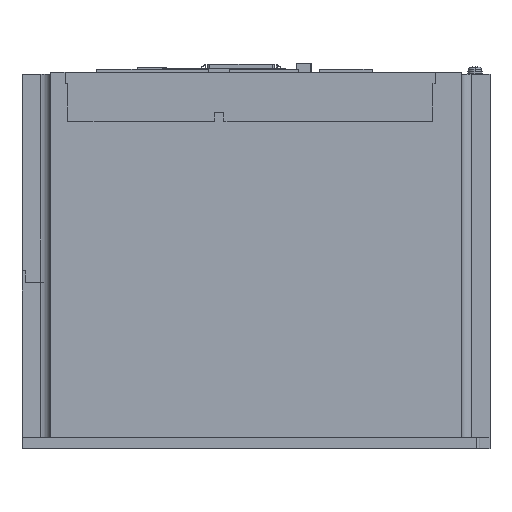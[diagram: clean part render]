
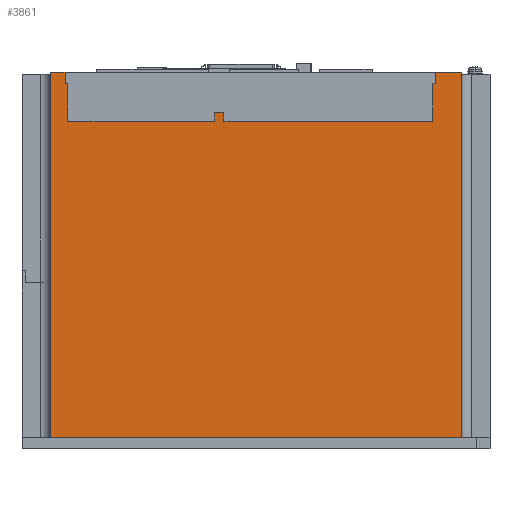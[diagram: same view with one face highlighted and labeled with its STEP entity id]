
A CAD part, left-side view. The second image highlights one B-rep face of the part: STEP entity #3861.
In plain terms, the highlighted planar face has unit normal (-1, 0, 0).
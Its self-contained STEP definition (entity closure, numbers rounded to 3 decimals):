
#921=DIRECTION('',(0.,-1.,0.));
#922=VECTOR('',#921,220.);
#923=CARTESIAN_POINT('',(-52.5,110.,0.));
#924=LINE('',#923,#922);
#1347=DIRECTION('',(0.,-1.,0.));
#1348=VECTOR('',#1347,8.);
#1349=CARTESIAN_POINT('',(-52.5,110.,195.2));
#1350=LINE('',#1349,#1348);
#1376=DIRECTION('',(0.,-1.,0.));
#1377=VECTOR('',#1376,14.);
#1378=CARTESIAN_POINT('',(-52.5,-96.,195.2));
#1379=LINE('',#1378,#1377);
#1406=DIRECTION('',(0.,0.,1.));
#1407=VECTOR('',#1406,20.);
#1408=CARTESIAN_POINT('',(-52.5,100.5,169.));
#1409=LINE('',#1408,#1407);
#1446=DIRECTION('',(0.,0.,1.));
#1447=VECTOR('',#1446,4.5);
#1448=CARTESIAN_POINT('',(-52.5,17.1,169.));
#1449=LINE('',#1448,#1447);
#1474=DIRECTION('',(0.,1.,0.));
#1475=VECTOR('',#1474,1.5);
#1476=CARTESIAN_POINT('',(-52.5,-96.,189.));
#1477=LINE('',#1476,#1475);
#1478=DIRECTION('',(0.,0.,1.));
#1479=VECTOR('',#1478,6.2);
#1480=CARTESIAN_POINT('',(-52.5,-96.,189.));
#1481=LINE('',#1480,#1479);
#1482=DIRECTION('',(0.,0.,1.));
#1483=VECTOR('',#1482,6.2);
#1484=CARTESIAN_POINT('',(-52.5,102.,189.));
#1485=LINE('',#1484,#1483);
#1486=DIRECTION('',(0.,1.,0.));
#1487=VECTOR('',#1486,1.5);
#1488=CARTESIAN_POINT('',(-52.5,100.5,189.));
#1489=LINE('',#1488,#1487);
#1490=DIRECTION('',(0.,1.,0.));
#1491=VECTOR('',#1490,78.4);
#1492=CARTESIAN_POINT('',(-52.5,22.1,169.));
#1493=LINE('',#1492,#1491);
#1494=DIRECTION('',(0.,0.,1.));
#1495=VECTOR('',#1494,4.5);
#1496=CARTESIAN_POINT('',(-52.5,22.1,169.));
#1497=LINE('',#1496,#1495);
#1498=DIRECTION('',(0.,1.,0.));
#1499=VECTOR('',#1498,5.);
#1500=CARTESIAN_POINT('',(-52.5,17.1,173.5));
#1501=LINE('',#1500,#1499);
#1502=DIRECTION('',(0.,1.,0.));
#1503=VECTOR('',#1502,111.6);
#1504=CARTESIAN_POINT('',(-52.5,-94.5,169.));
#1505=LINE('',#1504,#1503);
#1534=DIRECTION('',(0.,0.,-1.));
#1535=VECTOR('',#1534,20.);
#1536=CARTESIAN_POINT('',(-52.5,-94.5,189.));
#1537=LINE('',#1536,#1535);
#2032=DIRECTION('',(0.,0.,1.));
#2033=VECTOR('',#2032,195.2);
#2034=CARTESIAN_POINT('',(-52.5,-110.,0.));
#2035=LINE('',#2034,#2033);
#2122=DIRECTION('',(0.,0.,-1.));
#2123=VECTOR('',#2122,195.2);
#2124=CARTESIAN_POINT('',(-52.5,110.,195.2));
#2125=LINE('',#2124,#2123);
#2624=CARTESIAN_POINT('',(-52.5,110.,195.2));
#2626=VERTEX_POINT('',#2624);
#2663=CARTESIAN_POINT('',(-52.5,110.,0.));
#2664=CARTESIAN_POINT('',(-52.5,-110.,0.));
#2665=VERTEX_POINT('',#2663);
#2666=VERTEX_POINT('',#2664);
#2813=CARTESIAN_POINT('',(-52.5,-94.5,169.));
#2815=VERTEX_POINT('',#2813);
#2825=CARTESIAN_POINT('',(-52.5,17.1,169.));
#2827=VERTEX_POINT('',#2825);
#2829=CARTESIAN_POINT('',(-52.5,22.1,169.));
#2831=VERTEX_POINT('',#2829);
#2833=CARTESIAN_POINT('',(-52.5,100.5,169.));
#2834=VERTEX_POINT('',#2833);
#2843=CARTESIAN_POINT('',(-52.5,17.1,173.5));
#2844=CARTESIAN_POINT('',(-52.5,22.1,173.5));
#2845=VERTEX_POINT('',#2843);
#2846=VERTEX_POINT('',#2844);
#2871=CARTESIAN_POINT('',(-52.5,-110.,195.2));
#2873=VERTEX_POINT('',#2871);
#2897=CARTESIAN_POINT('',(-52.5,-96.,189.));
#2898=CARTESIAN_POINT('',(-52.5,-94.5,189.));
#2899=VERTEX_POINT('',#2897);
#2900=VERTEX_POINT('',#2898);
#2901=CARTESIAN_POINT('',(-52.5,100.5,189.));
#2902=CARTESIAN_POINT('',(-52.5,102.,189.));
#2903=VERTEX_POINT('',#2901);
#2904=VERTEX_POINT('',#2902);
#2905=CARTESIAN_POINT('',(-52.5,-96.,195.2));
#2906=VERTEX_POINT('',#2905);
#2907=CARTESIAN_POINT('',(-52.5,102.,195.2));
#2908=VERTEX_POINT('',#2907);
#3832=CARTESIAN_POINT('',(-52.5,125.,0.));
#3833=DIRECTION('',(-1.,0.,0.));
#3834=DIRECTION('',(0.,-1.,0.));
#3835=AXIS2_PLACEMENT_3D('',#3832,#3833,#3834);
#3836=PLANE('',#3835);
#3837=ORIENTED_EDGE('',*,*,#3793,.F.);
#3839=ORIENTED_EDGE('',*,*,#3838,.T.);
#3840=ORIENTED_EDGE('',*,*,#3665,.T.);
#3842=ORIENTED_EDGE('',*,*,#3841,.F.);
#3843=ORIENTED_EDGE('',*,*,#3184,.F.);
#3845=ORIENTED_EDGE('',*,*,#3844,.F.);
#3846=ORIENTED_EDGE('',*,*,#3641,.T.);
#3847=ORIENTED_EDGE('',*,*,#3684,.F.);
#3848=ORIENTED_EDGE('',*,*,#3826,.F.);
#3849=ORIENTED_EDGE('',*,*,#3724,.F.);
#3850=ORIENTED_EDGE('',*,*,#3756,.F.);
#3852=ORIENTED_EDGE('',*,*,#3851,.T.);
#3854=ORIENTED_EDGE('',*,*,#3853,.F.);
#3855=ORIENTED_EDGE('',*,*,#3779,.F.);
#3856=ORIENTED_EDGE('',*,*,#3742,.F.);
#3858=ORIENTED_EDGE('',*,*,#3857,.F.);
#3859=EDGE_LOOP('',(#3837,#3839,#3840,#3842,#3843,#3845,#3846,#3847,#3848,#3849,
#3850,#3852,#3854,#3855,#3856,#3858));
#3860=FACE_OUTER_BOUND('',#3859,.F.);
#3861=ADVANCED_FACE('',(#3860),#3836,.T.);
#3184=EDGE_CURVE('',#2665,#2666,#924,.T.);
#3641=EDGE_CURVE('',#2626,#2908,#1350,.T.);
#3665=EDGE_CURVE('',#2906,#2873,#1379,.T.);
#3684=EDGE_CURVE('',#2904,#2908,#1485,.T.);
#3724=EDGE_CURVE('',#2834,#2903,#1409,.T.);
#3742=EDGE_CURVE('',#2815,#2827,#1505,.T.);
#3756=EDGE_CURVE('',#2831,#2834,#1493,.T.);
#3779=EDGE_CURVE('',#2827,#2845,#1449,.T.);
#3793=EDGE_CURVE('',#2899,#2900,#1477,.T.);
#3826=EDGE_CURVE('',#2903,#2904,#1489,.T.);
#3838=EDGE_CURVE('',#2899,#2906,#1481,.T.);
#3841=EDGE_CURVE('',#2666,#2873,#2035,.T.);
#3844=EDGE_CURVE('',#2626,#2665,#2125,.T.);
#3851=EDGE_CURVE('',#2831,#2846,#1497,.T.);
#3853=EDGE_CURVE('',#2845,#2846,#1501,.T.);
#3857=EDGE_CURVE('',#2900,#2815,#1537,.T.);
